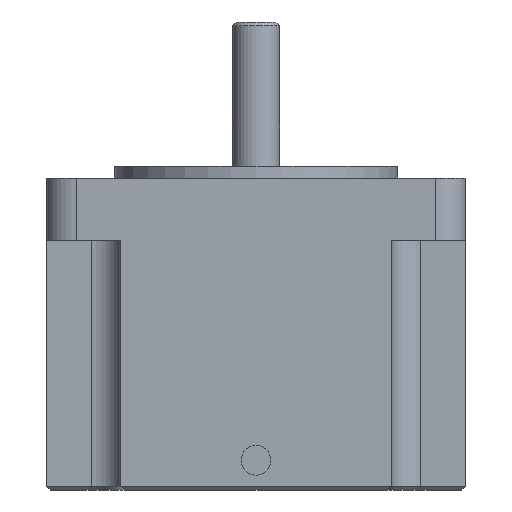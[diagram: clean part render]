
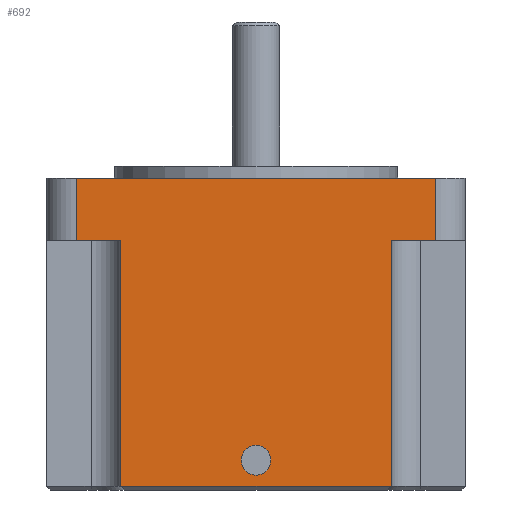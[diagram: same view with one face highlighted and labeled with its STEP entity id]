
A CAD part, front view. The second image highlights one B-rep face of the part: STEP entity #692.
In plain terms, the highlighted planar face has unit normal (0, -1, 0).
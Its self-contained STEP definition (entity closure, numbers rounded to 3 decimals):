
#1 = ORIENTED_EDGE ( 'NONE', *, *, #822, .F. ) ;
#4 = CARTESIAN_POINT ( 'NONE',  ( 18.2, -28.2, 0.5 ) ) ;
#107 = LINE ( 'NONE', #664, #1220 ) ;
#114 = CARTESIAN_POINT ( 'NONE',  ( -24.2, -28.2, 42. ) ) ;
#171 = CARTESIAN_POINT ( 'NONE',  ( 0., -28.2, 4. ) ) ;
#180 = DIRECTION ( 'NONE',  ( 0., 0., -1. ) ) ;
#183 = VECTOR ( 'NONE', #180, 1000. ) ;
#201 = EDGE_LOOP ( 'NONE', ( #1370, #1673, #447, #492, #1362, #1423, #769, #869 ) ) ;
#219 = VERTEX_POINT ( 'NONE', #684 ) ;
#240 = CARTESIAN_POINT ( 'NONE',  ( -24.2, -28.2, 42. ) ) ;
#307 = DIRECTION ( 'NONE',  ( 0., 0., 1. ) ) ;
#357 = CARTESIAN_POINT ( 'NONE',  ( 0., -28.2, 33.62 ) ) ;
#358 = VERTEX_POINT ( 'NONE', #934 ) ;
#375 = FACE_BOUND ( 'NONE', #1451, .T. ) ;
#422 = VERTEX_POINT ( 'NONE', #1545 ) ;
#442 = VECTOR ( 'NONE', #1793, 1000. ) ;
#447 = ORIENTED_EDGE ( 'NONE', *, *, #720, .F. ) ;
#492 = ORIENTED_EDGE ( 'NONE', *, *, #617, .T. ) ;
#513 = VECTOR ( 'NONE', #1092, 1000. ) ;
#517 = DIRECTION ( 'NONE',  ( 1., 0., 0. ) ) ;
#531 = CARTESIAN_POINT ( 'NONE',  ( 18.2, -28.2, 56.142 ) ) ;
#556 = LINE ( 'NONE', #1117, #1024 ) ;
#571 = CARTESIAN_POINT ( 'NONE',  ( 0., -28.2, 6. ) ) ;
#589 = LINE ( 'NONE', #1147, #596 ) ;
#596 = VECTOR ( 'NONE', #1724, 1000. ) ;
#617 = EDGE_CURVE ( 'NONE', #1510, #751, #1638, .T. ) ;
#643 = EDGE_CURVE ( 'NONE', #422, #1476, #646, .T. ) ;
#646 = LINE ( 'NONE', #1214, #442 ) ;
#656 = VECTOR ( 'NONE', #517, 1000. ) ;
#661 = VECTOR ( 'NONE', #919, 1000. ) ;
#664 = CARTESIAN_POINT ( 'NONE',  ( -24.2, -28.2, 42. ) ) ;
#684 = CARTESIAN_POINT ( 'NONE',  ( -24.2, -28.2, 33.62 ) ) ;
#692 = ADVANCED_FACE ( 'NONE', ( #375, #936 ), #1519, .F. ) ;
#720 = EDGE_CURVE ( 'NONE', #1510, #1476, #1817, .T. ) ;
#732 = DIRECTION ( 'NONE',  ( 0., -1., 0. ) ) ;
#751 = VERTEX_POINT ( 'NONE', #962 ) ;
#769 = ORIENTED_EDGE ( 'NONE', *, *, #997, .T. ) ;
#779 = CIRCLE ( 'NONE', #1615, 2. ) ;
#800 = DIRECTION ( 'NONE',  ( 0., 1., 0. ) ) ;
#812 = CARTESIAN_POINT ( 'NONE',  ( 18.2, -28.2, 33.62 ) ) ;
#822 = EDGE_CURVE ( 'NONE', #930, #1576, #779, .T. ) ;
#869 = ORIENTED_EDGE ( 'NONE', *, *, #1361, .T. ) ;
#876 = LINE ( 'NONE', #1456, #183 ) ;
#919 = DIRECTION ( 'NONE',  ( 1., 0., 0. ) ) ;
#930 = VERTEX_POINT ( 'NONE', #1711 ) ;
#934 = CARTESIAN_POINT ( 'NONE',  ( -18.2, -28.2, 33.62 ) ) ;
#936 = FACE_OUTER_BOUND ( 'NONE', #201, .T. ) ;
#962 = CARTESIAN_POINT ( 'NONE',  ( 24.2, -28.2, 33.62 ) ) ;
#997 = EDGE_CURVE ( 'NONE', #1126, #219, #589, .T. ) ;
#1001 = CARTESIAN_POINT ( 'NONE',  ( 0., -28.2, 4. ) ) ;
#1024 = VECTOR ( 'NONE', #1693, 1000. ) ;
#1042 = CIRCLE ( 'NONE', #1635, 2. ) ;
#1092 = DIRECTION ( 'NONE',  ( 0., 0., -1. ) ) ;
#1117 = CARTESIAN_POINT ( 'NONE',  ( 24.2, -28.2, 42. ) ) ;
#1126 = VERTEX_POINT ( 'NONE', #114 ) ;
#1137 = ORIENTED_EDGE ( 'NONE', *, *, #1632, .F. ) ;
#1147 = CARTESIAN_POINT ( 'NONE',  ( -24.2, -28.2, 42. ) ) ;
#1214 = CARTESIAN_POINT ( 'NONE',  ( 18.2, -28.2, 0.5 ) ) ;
#1220 = VECTOR ( 'NONE', #1234, 1000. ) ;
#1221 = LINE ( 'NONE', #1803, #656 ) ;
#1234 = DIRECTION ( 'NONE',  ( 1., 0., 0. ) ) ;
#1261 = EDGE_CURVE ( 'NONE', #358, #422, #876, .T. ) ;
#1306 = DIRECTION ( 'NONE',  ( 0., 0., 1. ) ) ;
#1361 = EDGE_CURVE ( 'NONE', #219, #358, #1221, .T. ) ;
#1362 = ORIENTED_EDGE ( 'NONE', *, *, #1537, .F. ) ;
#1370 = ORIENTED_EDGE ( 'NONE', *, *, #1261, .T. ) ;
#1378 = DIRECTION ( 'NONE',  ( 0., 0., 1. ) ) ;
#1383 = EDGE_CURVE ( 'NONE', #1126, #1523, #107, .T. ) ;
#1423 = ORIENTED_EDGE ( 'NONE', *, *, #1383, .F. ) ;
#1451 = EDGE_LOOP ( 'NONE', ( #1137, #1 ) ) ;
#1456 = CARTESIAN_POINT ( 'NONE',  ( -18.2, -28.2, 56.142 ) ) ;
#1476 = VERTEX_POINT ( 'NONE', #4 ) ;
#1510 = VERTEX_POINT ( 'NONE', #812 ) ;
#1519 = PLANE ( 'NONE',  #1580 ) ;
#1523 = VERTEX_POINT ( 'NONE', #1546 ) ;
#1537 = EDGE_CURVE ( 'NONE', #1523, #751, #556, .T. ) ;
#1545 = CARTESIAN_POINT ( 'NONE',  ( -18.2, -28.2, 0.5 ) ) ;
#1546 = CARTESIAN_POINT ( 'NONE',  ( 24.2, -28.2, 42. ) ) ;
#1576 = VERTEX_POINT ( 'NONE', #571 ) ;
#1580 = AXIS2_PLACEMENT_3D ( 'NONE', #240, #800, #1378 ) ;
#1586 = DIRECTION ( 'NONE',  ( 0., -1., 0. ) ) ;
#1615 = AXIS2_PLACEMENT_3D ( 'NONE', #171, #732, #1306 ) ;
#1632 = EDGE_CURVE ( 'NONE', #1576, #930, #1042, .T. ) ;
#1635 = AXIS2_PLACEMENT_3D ( 'NONE', #1001, #1586, #307 ) ;
#1638 = LINE ( 'NONE', #357, #661 ) ;
#1673 = ORIENTED_EDGE ( 'NONE', *, *, #643, .T. ) ;
#1693 = DIRECTION ( 'NONE',  ( 0., 0., -1. ) ) ;
#1711 = CARTESIAN_POINT ( 'NONE',  ( 0., -28.2, 2. ) ) ;
#1724 = DIRECTION ( 'NONE',  ( 0., 0., -1. ) ) ;
#1793 = DIRECTION ( 'NONE',  ( 1., 0., 0. ) ) ;
#1803 = CARTESIAN_POINT ( 'NONE',  ( 0., -28.2, 33.62 ) ) ;
#1817 = LINE ( 'NONE', #531, #513 ) ;
